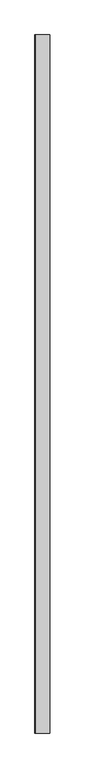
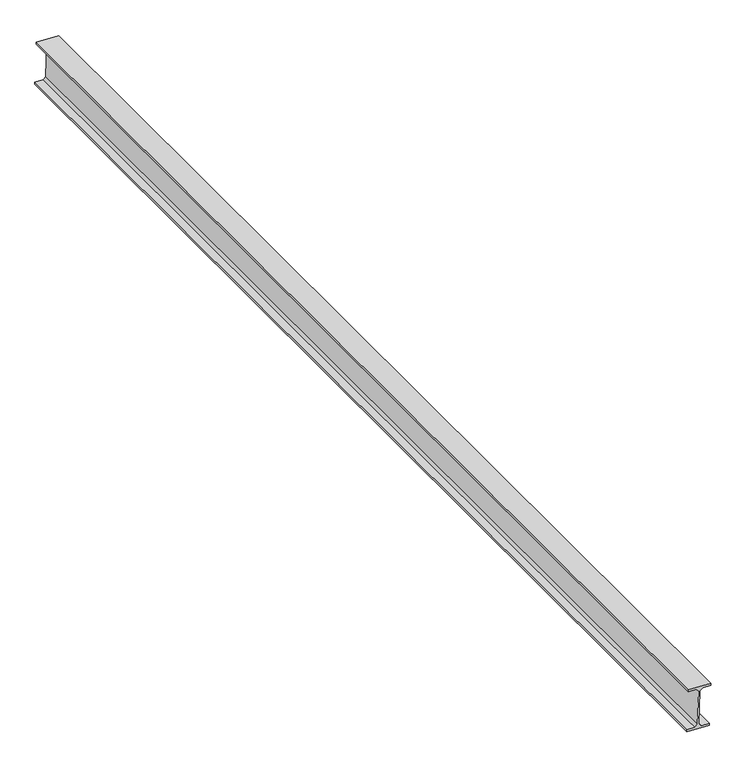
"""IFC4 building model written with IfcOpenShell, lengths in millimetres: beam geometry, Panne 1565 : Panne 1565."""

from ifc_helpers import new_model, si_unit, frame, origin, place, context, project, spatial, polyline, outline, extrude, source, transform, mapped, element, save


def beam_6e87dec0(model_context):
    return source(origin(), model_context, "Body", "SweptSolid", [
        extrude(outline(polyline([(7472.8195319, 11450.9285162), (7469.9512882, 11532.8783373), (7477.3467599, 11533.1371788), (7478.378628, 11503.6552309), (7487.6879278, 11494.9755456), (7614.8100893, 11499.4248213), (7623.4897747, 11508.7341211), (7622.4579065, 11538.2160689), (7629.8533781, 11538.4749104), (7632.7216219, 11456.5250893), (7625.3261502, 11456.2662478), (7624.294282, 11485.7481956), (7614.9849822, 11494.427881), (7487.8628207, 11489.9786053), (7479.1831354, 11480.6693055), (7480.2150036, 11451.1873577), (7472.8195319, 11450.9285162)])), frame((0.0, -8510.0, 0.0), z_axis=(0.0, 1.0, 0.0), x_axis=(0.0, 0.0, 1.0)), (0.0, 0.0, 1.0), 4120.0),
    ])


if __name__ == "__main__":
    model = new_model("IFC4")
    model_context = context("Model", 3, world=origin())
    ifc_project = project(units=[si_unit("LENGTHUNIT", "METRE", prefix="MILLI")], contexts=[model_context])
    site = spatial("IfcSite", under=ifc_project)
    building = spatial("IfcBuilding", under=site)
    placement = place(None, origin())
    beam_shape = beam_6e87dec0(model_context)
    element("IfcBeam", 1, ObjectType="Panne 1565 : Panne 1565", at=placement, inside=building, context=model_context, shape_type="MappedRepresentation", body=[
        mapped(beam_shape, transform((0.0, 0.0, 0.0), x_axis=(1.0, 0.0, 0.0), y_axis=(0.0, 1.0, 0.0), z_axis=(0.0, 0.0, 1.0))),
    ])
    save(model, "model.ifc")
